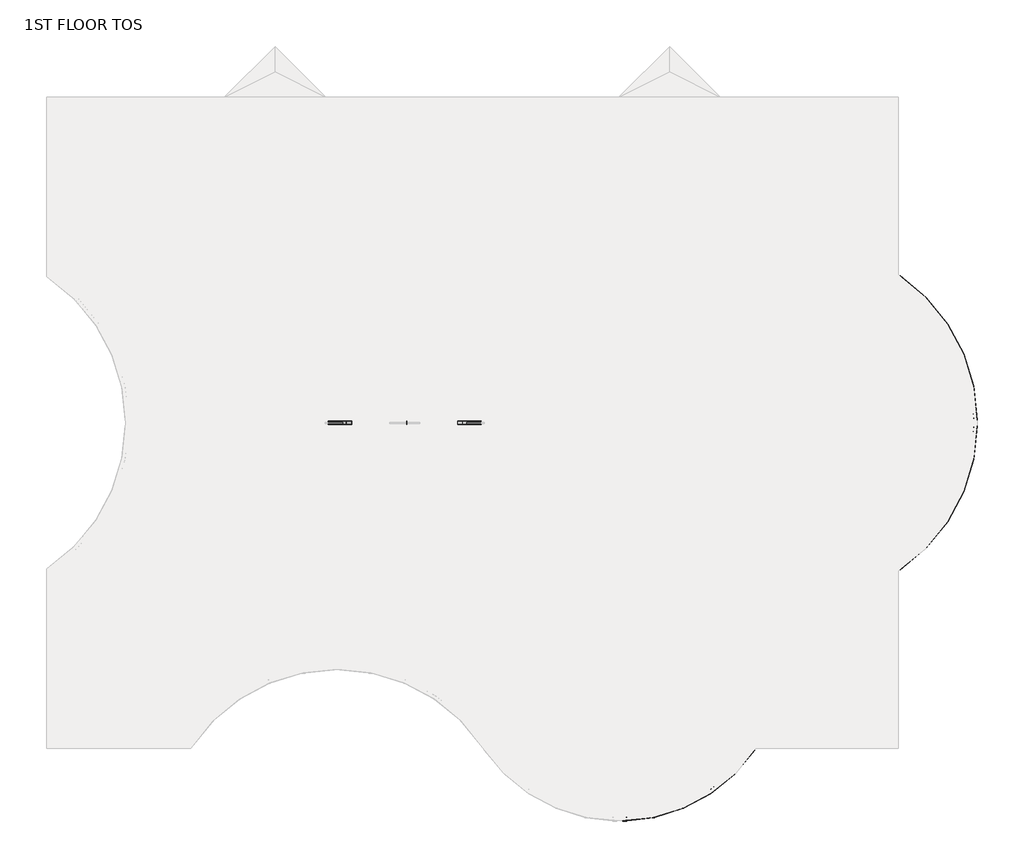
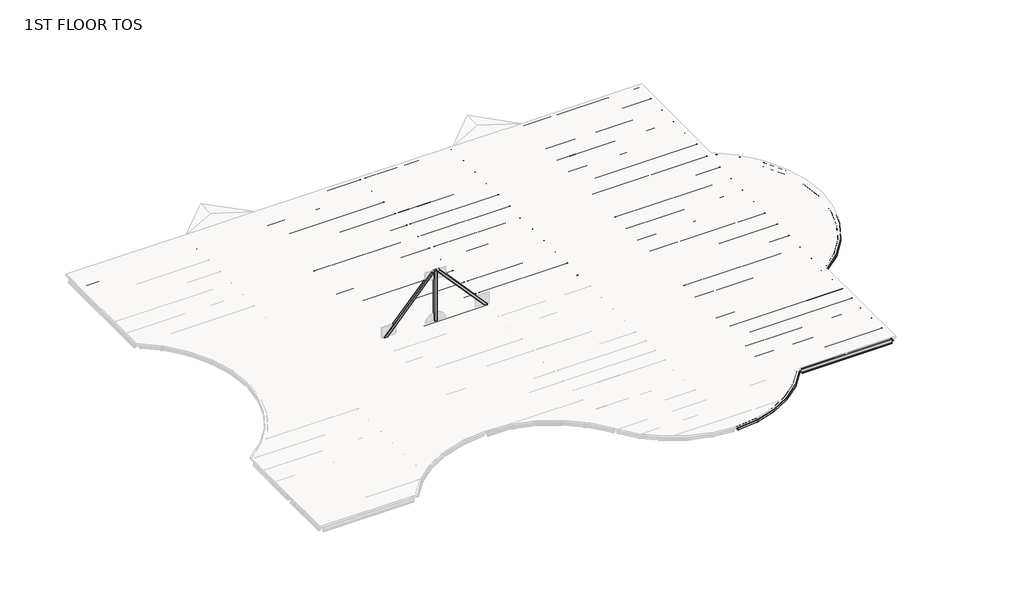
# One storey, part 2 of 2: 111 beams, 3 members.
"""IFC4 building model written with IfcOpenShell, lengths in millimetres."""

from ifc_helpers import new_model, si_unit, origin, place, context, project, spatial, transform, mapped, element, save
from components import m_hss_square_hss203_2x203_2x9_5_28e91a4e, m_hss_square_hss203_2x203_2x9_5_f31329aa, m_hss_square_hss203_2x203_2x9_5_63507dff, ub_universal_beams_ub254x102x28_7812688d, ub_universal_beams_ub254x102x28_4a38c177, ub_universal_beams_ub305x165x40_c4d0385b, ub_universal_beams_ub305x165x40_19965e16, ub_universal_beams_ub305x165x40_d3abc31d, ub_universal_beams_ub305x165x40_0c73730f, ub_universal_beams_ub305x165x40_2a963f0c, ub_universal_beams_ub305x165x40_9ce7f2ee, ub_universal_beams_ub305x165x40_d184adfd, ub_universal_beams_ub305x165x40_bc7dc938, ub_universal_beams_ub305x165x40_b4233d25, ub_universal_beams_ub356x171x51_c708c058, ub_universal_beams_ub356x171x51_ef72dcdd, ub_universal_beams_ub356x171x51_10b3c54f, ub_universal_beams_ub356x171x51_4c9fd821, ub_universal_beams_ub356x171x51_d1a87c3c, ub_universal_beams_ub356x171x51_fa75724b, ub_universal_beams_ub356x171x51_68db896e, ub_universal_beams_ub356x171x51_c634c4a6, ub_universal_beams_ub356x171x51_995f1560, ub_universal_beams_ub356x171x51_dfc36663, ub_universal_beams_ub356x171x51_11d6b780, ub_universal_beams_ub356x171x51_76b2d20b, ub_universal_beams_ub356x171x51_145ecd4b, ub_universal_beams_ub356x171x51_c7dff8d2, ub_universal_beams_ub356x171x51_8a345439, ub_universal_beams_ub356x171x51_6da510e9, ub_universal_beams_ub356x171x51_e97f8d2e, ub_universal_beams_ub356x171x51_a38b99de, ub_universal_beams_ub356x171x51_d8f4cdde, ub_universal_beams_ub356x171x51_475301e6, ub_universal_beams_ub356x171x51_c03c70fb, ub_universal_beams_ub356x171x51_741bae58, m_hss_square_hss203_2x203_2x9_5_33c3a177, m_hss_square_hss203_2x203_2x9_5_a36f1cbc

model = new_model("IFC4")

# Units and contexts
model_context = context("Model", 3, world=origin())
ifc_project = project(units=[si_unit("LENGTHUNIT", "METRE", prefix="MILLI")], contexts=[model_context])

# Site, building, storey
site = spatial("IfcSite", under=ifc_project)
building = spatial("IfcBuilding", under=site)
storey = spatial("IfcBuildingStorey", under=building, Name="1ST FLOOR TOS", Elevation=4419.6)

# Beams
placement = place(None, origin())
m_hss_square_hss203_2x203_2x9_5_shape = m_hss_square_hss203_2x203_2x9_5_28e91a4e(model_context)
element("IfcBeam", 1, ObjectType="M_HSS Square : HSS203.2X203.2X9.5", at=placement, inside=storey, context=model_context, shape_type="MappedRepresentation", body=[
    mapped(m_hss_square_hss203_2x203_2x9_5_shape, transform((44027.575, 24539.575, 4318.1), x_axis=(0.8332810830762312, -0.5528495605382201, 0.0), y_axis=(0.5528495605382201, 0.8332810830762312, 0.0), z_axis=(0.0, 0.0, 1.0))),
])
m_hss_square_hss203_2x203_2x9_5_2_shape = m_hss_square_hss203_2x203_2x9_5_f31329aa(model_context)
element("IfcBeam", 2, ObjectType="M_HSS Square : HSS203.2X203.2X9.5", at=placement, inside=storey, context=model_context, shape_type="MappedRepresentation", body=[
    mapped(m_hss_square_hss203_2x203_2x9_5_2_shape, transform((44027.575, 9299.575, 4318.1), x_axis=(0.8332810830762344, 0.5528495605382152, 0.0), y_axis=(-0.5528495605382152, 0.8332810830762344, 0.0), z_axis=(0.0, 0.0, 1.0))),
])
m_hss_square_hss203_2x203_2x9_5_3_shape = m_hss_square_hss203_2x203_2x9_5_63507dff(model_context)
element("IfcBeam", 3, ObjectType="M_HSS Square : HSS203.2X203.2X9.5", at=placement, inside=storey, context=model_context, shape_type="MappedRepresentation", body=[
    mapped(m_hss_square_hss203_2x203_2x9_5_3_shape, transform((36716.575, 155.575, 4318.1), x_axis=(-0.5530174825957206, -0.8331696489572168, 0.0), y_axis=(0.8331696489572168, -0.5530174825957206, 0.0), z_axis=(0.0, 0.0, 1.0))),
])
ub_universal_beams_ub254x102x28_shape = ub_universal_beams_ub254x102x28_7812688d(model_context)
element("IfcBeam", 4, ObjectType="UB-Universal Beams : UB254x102x28", at=placement, inside=storey, context=model_context, shape_type="MappedRepresentation", body=[
    mapped(ub_universal_beams_ub254x102x28_shape, transform((10592.575, 34976.575, 4289.4), x_axis=(0.7071067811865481, 0.7071067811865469, 0.0), y_axis=(-0.7071067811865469, 0.7071067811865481, 0.0), z_axis=(0.0, 0.0, 1.0))),
])
element("IfcBeam", 5, ObjectType="UB-Universal Beams : UB254x102x28", at=placement, inside=storey, context=model_context, shape_type="MappedRepresentation", body=[
    mapped(ub_universal_beams_ub254x102x28_shape, transform((31004.575, 34976.575, 4289.4), x_axis=(0.7071067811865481, 0.7071067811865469, 0.0), y_axis=(-0.7071067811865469, 0.7071067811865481, 0.0), z_axis=(0.0, 0.0, 1.0))),
])
ub_universal_beams_ub254x102x28_2_shape = ub_universal_beams_ub254x102x28_4a38c177(model_context)
element("IfcBeam", 6, ObjectType="UB-Universal Beams : UB254x102x28", at=placement, inside=storey, context=model_context, shape_type="MappedRepresentation", body=[
    mapped(ub_universal_beams_ub254x102x28_2_shape, transform((13178.575, 34976.575, 4289.4), x_axis=(0.707106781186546, -0.707106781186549, 0.0), y_axis=(0.707106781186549, 0.707106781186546, 0.0), z_axis=(0.0, 0.0, 1.0))),
])
element("IfcBeam", 7, ObjectType="UB-Universal Beams : UB254x102x28", at=placement, inside=storey, context=model_context, shape_type="MappedRepresentation", body=[
    mapped(ub_universal_beams_ub254x102x28_2_shape, transform((33590.575, 34976.575, 4289.4), x_axis=(0.7071067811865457, -0.7071067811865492, 0.0), y_axis=(0.7071067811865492, 0.7071067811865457, 0.0), z_axis=(0.0, 0.0, 1.0))),
])
ub_universal_beams_ub305x165x40_shape = ub_universal_beams_ub305x165x40_c4d0385b(model_context)
element("IfcBeam", 8, ObjectType="UB-Universal Beams : UB305x165x40", at=placement, inside=storey, context=model_context, shape_type="MappedRepresentation", body=[
    mapped(ub_universal_beams_ub305x165x40_shape, transform((4727.575, 32159.575, 4267.9), x_axis=(1.0, 0.0, 0.0), y_axis=(0.0, 1.0, 0.0), z_axis=(0.0, 0.0, 1.0))),
])
element("IfcBeam", 9, ObjectType="UB-Universal Beams : UB305x165x40", at=placement, inside=storey, context=model_context, shape_type="MappedRepresentation", body=[
    mapped(ub_universal_beams_ub305x165x40_shape, transform((39455.575, 32159.575, 4267.9), x_axis=(1.0, 0.0, 0.0), y_axis=(0.0, 1.0, 0.0), z_axis=(0.0, 0.0, 1.0))),
])
element("IfcBeam", 10, ObjectType="UB-Universal Beams : UB305x165x40", at=placement, inside=storey, context=model_context, shape_type="MappedRepresentation", body=[
    mapped(ub_universal_beams_ub305x165x40_shape, transform((39455.575, 30635.575, 4267.9), x_axis=(1.0, 0.0, 0.0), y_axis=(0.0, 1.0, 0.0), z_axis=(0.0, 0.0, 1.0))),
])
element("IfcBeam", 11, ObjectType="UB-Universal Beams : UB305x165x40", at=placement, inside=storey, context=model_context, shape_type="MappedRepresentation", body=[
    mapped(ub_universal_beams_ub305x165x40_shape, transform((39455.575, 29111.575, 4267.9), x_axis=(1.0, 0.0, 0.0), y_axis=(0.0, 1.0, 0.0), z_axis=(0.0, 0.0, 1.0))),
])
element("IfcBeam", 12, ObjectType="UB-Universal Beams : UB305x165x40", at=placement, inside=storey, context=model_context, shape_type="MappedRepresentation", body=[
    mapped(ub_universal_beams_ub305x165x40_shape, transform((39455.575, 27587.575, 4267.9), x_axis=(1.0, 0.0, 0.0), y_axis=(0.0, 1.0, 0.0), z_axis=(0.0, 0.0, 1.0))),
])
element("IfcBeam", 13, ObjectType="UB-Universal Beams : UB305x165x40", at=placement, inside=storey, context=model_context, shape_type="MappedRepresentation", body=[
    mapped(ub_universal_beams_ub305x165x40_shape, transform((39455.575, 26063.575, 4267.9), x_axis=(1.0, 0.0, 0.0), y_axis=(0.0, 1.0, 0.0), z_axis=(0.0, 0.0, 1.0))),
])
element("IfcBeam", 14, ObjectType="UB-Universal Beams : UB305x165x40", at=placement, inside=storey, context=model_context, shape_type="MappedRepresentation", body=[
    mapped(ub_universal_beams_ub305x165x40_shape, transform((39455.575, 23015.575, 4267.9), x_axis=(1.0, 0.0, 0.0), y_axis=(0.0, 1.0, 0.0), z_axis=(0.0, 0.0, 1.0))),
])
element("IfcBeam", 15, ObjectType="UB-Universal Beams : UB305x165x40", at=placement, inside=storey, context=model_context, shape_type="MappedRepresentation", body=[
    mapped(ub_universal_beams_ub305x165x40_shape, transform((39455.575, 21491.575, 4267.9), x_axis=(1.0, 0.0, 0.0), y_axis=(0.0, 1.0, 0.0), z_axis=(0.0, 0.0, 1.0))),
])
element("IfcBeam", 16, ObjectType="UB-Universal Beams : UB305x165x40", at=placement, inside=storey, context=model_context, shape_type="MappedRepresentation", body=[
    mapped(ub_universal_beams_ub305x165x40_shape, transform((39455.575, 19967.575, 4267.9), x_axis=(1.0, 0.0, 0.0), y_axis=(0.0, 1.0, 0.0), z_axis=(0.0, 0.0, 1.0))),
])
element("IfcBeam", 17, ObjectType="UB-Universal Beams : UB305x165x40", at=placement, inside=storey, context=model_context, shape_type="MappedRepresentation", body=[
    mapped(ub_universal_beams_ub305x165x40_shape, transform((39455.575, 18443.575, 4267.9), x_axis=(1.0, 0.0, 0.0), y_axis=(0.0, 1.0, 0.0), z_axis=(0.0, 0.0, 1.0))),
])
element("IfcBeam", 18, ObjectType="UB-Universal Beams : UB305x165x40", at=placement, inside=storey, context=model_context, shape_type="MappedRepresentation", body=[
    mapped(ub_universal_beams_ub305x165x40_shape, transform((39455.575, 15395.575, 4267.9), x_axis=(1.0, 0.0, 0.0), y_axis=(0.0, 1.0, 0.0), z_axis=(0.0, 0.0, 1.0))),
])
element("IfcBeam", 19, ObjectType="UB-Universal Beams : UB305x165x40", at=placement, inside=storey, context=model_context, shape_type="MappedRepresentation", body=[
    mapped(ub_universal_beams_ub305x165x40_shape, transform((39455.575, 13871.575, 4267.9), x_axis=(1.0, 0.0, 0.0), y_axis=(0.0, 1.0, 0.0), z_axis=(0.0, 0.0, 1.0))),
])
element("IfcBeam", 20, ObjectType="UB-Universal Beams : UB305x165x40", at=placement, inside=storey, context=model_context, shape_type="MappedRepresentation", body=[
    mapped(ub_universal_beams_ub305x165x40_shape, transform((39455.575, 12347.575, 4267.9), x_axis=(1.0, 0.0, 0.0), y_axis=(0.0, 1.0, 0.0), z_axis=(0.0, 0.0, 1.0))),
])
element("IfcBeam", 21, ObjectType="UB-Universal Beams : UB305x165x40", at=placement, inside=storey, context=model_context, shape_type="MappedRepresentation", body=[
    mapped(ub_universal_beams_ub305x165x40_shape, transform((39455.575, 10823.575, 4267.9), x_axis=(1.0, 0.0, 0.0), y_axis=(0.0, 1.0, 0.0), z_axis=(0.0, 0.0, 1.0))),
])
element("IfcBeam", 22, ObjectType="UB-Universal Beams : UB305x165x40", at=placement, inside=storey, context=model_context, shape_type="MappedRepresentation", body=[
    mapped(ub_universal_beams_ub305x165x40_shape, transform((39455.575, 5508.325, 4267.9), x_axis=(-1.0, 0.0, 0.0), y_axis=(0.0, -1.0, 0.0), z_axis=(0.0, 0.0, 1.0))),
])
element("IfcBeam", 23, ObjectType="UB-Universal Beams : UB305x165x40", at=placement, inside=storey, context=model_context, shape_type="MappedRepresentation", body=[
    mapped(ub_universal_beams_ub305x165x40_shape, transform((39455.575, 6772.075, 4267.9), x_axis=(-1.0, 0.0, 0.0), y_axis=(0.0, -1.0, 0.0), z_axis=(0.0, 0.0, 1.0))),
])
element("IfcBeam", 24, ObjectType="UB-Universal Beams : UB305x165x40", at=placement, inside=storey, context=model_context, shape_type="MappedRepresentation", body=[
    mapped(ub_universal_beams_ub305x165x40_shape, transform((39455.575, 8035.825, 4267.9), x_axis=(-1.0, 0.0, 0.0), y_axis=(0.0, -1.0, 0.0), z_axis=(0.0, 0.0, 1.0))),
])
element("IfcBeam", 25, ObjectType="UB-Universal Beams : UB305x165x40", at=placement, inside=storey, context=model_context, shape_type="MappedRepresentation", body=[
    mapped(ub_universal_beams_ub305x165x40_shape, transform((39455.575, 1518.575, 4267.9), x_axis=(-1.0, 0.0, 0.0), y_axis=(0.0, -1.0, 0.0), z_axis=(0.0, 0.0, 1.0))),
])
element("IfcBeam", 26, ObjectType="UB-Universal Beams : UB305x165x40", at=placement, inside=storey, context=model_context, shape_type="MappedRepresentation", body=[
    mapped(ub_universal_beams_ub305x165x40_shape, transform((39455.575, 2881.575, 4267.9), x_axis=(-1.0, 0.0, 0.0), y_axis=(0.0, -1.0, 0.0), z_axis=(0.0, 0.0, 1.0))),
])
ub_universal_beams_ub305x165x40_2_shape = ub_universal_beams_ub305x165x40_19965e16(model_context)
element("IfcBeam", 27, ObjectType="UB-Universal Beams : UB305x165x40", at=placement, inside=storey, context=model_context, shape_type="MappedRepresentation", body=[
    mapped(ub_universal_beams_ub305x165x40_2_shape, transform((11885.575, 34803.325, 4267.9), x_axis=(1.0, 0.0, 0.0), y_axis=(0.0, 1.0, 0.0), z_axis=(0.0, 0.0, 1.0))),
])
element("IfcBeam", 28, ObjectType="UB-Universal Beams : UB305x165x40", at=placement, inside=storey, context=model_context, shape_type="MappedRepresentation", body=[
    mapped(ub_universal_beams_ub305x165x40_2_shape, transform((32297.575, 34803.325, 4267.9), x_axis=(1.0, 0.0, 0.0), y_axis=(0.0, 1.0, 0.0), z_axis=(0.0, 0.0, 1.0))),
])
ub_universal_beams_ub305x165x40_3_shape = ub_universal_beams_ub305x165x40_d3abc31d(model_context)
element("IfcBeam", 29, ObjectType="UB-Universal Beams : UB305x165x40", at=placement, inside=storey, context=model_context, shape_type="MappedRepresentation", body=[
    mapped(ub_universal_beams_ub305x165x40_3_shape, transform((11885.575, 33337.075, 4267.9), x_axis=(1.0, 0.0, 0.0), y_axis=(0.0, 1.0, 0.0), z_axis=(0.0, 0.0, 1.0))),
])
element("IfcBeam", 30, ObjectType="UB-Universal Beams : UB305x165x40", at=placement, inside=storey, context=model_context, shape_type="MappedRepresentation", body=[
    mapped(ub_universal_beams_ub305x165x40_3_shape, transform((11885.575, 31870.825, 4267.9), x_axis=(1.0, 0.0, 0.0), y_axis=(0.0, 1.0, 0.0), z_axis=(0.0, 0.0, 1.0))),
])
element("IfcBeam", 31, ObjectType="UB-Universal Beams : UB305x165x40", at=placement, inside=storey, context=model_context, shape_type="MappedRepresentation", body=[
    mapped(ub_universal_beams_ub305x165x40_3_shape, transform((11885.575, 30404.575, 4267.9), x_axis=(1.0, 0.0, 0.0), y_axis=(0.0, 1.0, 0.0), z_axis=(0.0, 0.0, 1.0))),
])
element("IfcBeam", 32, ObjectType="UB-Universal Beams : UB305x165x40", at=placement, inside=storey, context=model_context, shape_type="MappedRepresentation", body=[
    mapped(ub_universal_beams_ub305x165x40_3_shape, transform((11885.575, 28938.325, 4267.9), x_axis=(1.0, 0.0, 0.0), y_axis=(0.0, 1.0, 0.0), z_axis=(0.0, 0.0, 1.0))),
])
element("IfcBeam", 33, ObjectType="UB-Universal Beams : UB305x165x40", at=placement, inside=storey, context=model_context, shape_type="MappedRepresentation", body=[
    mapped(ub_universal_beams_ub305x165x40_3_shape, transform((32297.575, 33337.075, 4267.9), x_axis=(1.0, 0.0, 0.0), y_axis=(0.0, 1.0, 0.0), z_axis=(0.0, 0.0, 1.0))),
])
element("IfcBeam", 34, ObjectType="UB-Universal Beams : UB305x165x40", at=placement, inside=storey, context=model_context, shape_type="MappedRepresentation", body=[
    mapped(ub_universal_beams_ub305x165x40_3_shape, transform((32297.575, 31870.825, 4267.9), x_axis=(1.0, 0.0, 0.0), y_axis=(0.0, 1.0, 0.0), z_axis=(0.0, 0.0, 1.0))),
])
element("IfcBeam", 35, ObjectType="UB-Universal Beams : UB305x165x40", at=placement, inside=storey, context=model_context, shape_type="MappedRepresentation", body=[
    mapped(ub_universal_beams_ub305x165x40_3_shape, transform((32297.575, 30404.575, 4267.9), x_axis=(1.0, 0.0, 0.0), y_axis=(0.0, 1.0, 0.0), z_axis=(0.0, 0.0, 1.0))),
])
element("IfcBeam", 36, ObjectType="UB-Universal Beams : UB305x165x40", at=placement, inside=storey, context=model_context, shape_type="MappedRepresentation", body=[
    mapped(ub_universal_beams_ub305x165x40_3_shape, transform((32297.575, 28938.325, 4267.9), x_axis=(1.0, 0.0, 0.0), y_axis=(0.0, 1.0, 0.0), z_axis=(0.0, 0.0, 1.0))),
])
element("IfcBeam", 37, ObjectType="UB-Universal Beams : UB305x165x40", at=placement, inside=storey, context=model_context, shape_type="MappedRepresentation", body=[
    mapped(ub_universal_beams_ub305x165x40_3_shape, transform((32297.575, 27472.075, 4267.9), x_axis=(1.0, 0.0, 0.0), y_axis=(0.0, 1.0, 0.0), z_axis=(0.0, 0.0, 1.0))),
])
element("IfcBeam", 38, ObjectType="UB-Universal Beams : UB305x165x40", at=placement, inside=storey, context=model_context, shape_type="MappedRepresentation", body=[
    mapped(ub_universal_beams_ub305x165x40_3_shape, transform((32297.575, 26005.825, 4267.9), x_axis=(1.0, 0.0, 0.0), y_axis=(0.0, 1.0, 0.0), z_axis=(0.0, 0.0, 1.0))),
])
element("IfcBeam", 39, ObjectType="UB-Universal Beams : UB305x165x40", at=placement, inside=storey, context=model_context, shape_type="MappedRepresentation", body=[
    mapped(ub_universal_beams_ub305x165x40_3_shape, transform((32297.575, 1518.575, 4267.9), x_axis=(-1.0, 0.0, 0.0), y_axis=(0.0, -1.0, 0.0), z_axis=(0.0, 0.0, 1.0))),
])
element("IfcBeam", 40, ObjectType="UB-Universal Beams : UB305x165x40", at=placement, inside=storey, context=model_context, shape_type="MappedRepresentation", body=[
    mapped(ub_universal_beams_ub305x165x40_3_shape, transform((32297.575, 2881.575, 4267.9), x_axis=(-1.0, 0.0, 0.0), y_axis=(0.0, -1.0, 0.0), z_axis=(0.0, 0.0, 1.0))),
])
element("IfcBeam", 41, ObjectType="UB-Universal Beams : UB305x165x40", at=placement, inside=storey, context=model_context, shape_type="MappedRepresentation", body=[
    mapped(ub_universal_beams_ub305x165x40_3_shape, transform((32297.575, 5508.325, 4267.9), x_axis=(-1.0, 0.0, 0.0), y_axis=(0.0, -1.0, 0.0), z_axis=(0.0, 0.0, 1.0))),
])
element("IfcBeam", 42, ObjectType="UB-Universal Beams : UB305x165x40", at=placement, inside=storey, context=model_context, shape_type="MappedRepresentation", body=[
    mapped(ub_universal_beams_ub305x165x40_3_shape, transform((32297.575, 6772.075, 4267.9), x_axis=(-1.0, 0.0, 0.0), y_axis=(0.0, -1.0, 0.0), z_axis=(0.0, 0.0, 1.0))),
])
element("IfcBeam", 43, ObjectType="UB-Universal Beams : UB305x165x40", at=placement, inside=storey, context=model_context, shape_type="MappedRepresentation", body=[
    mapped(ub_universal_beams_ub305x165x40_3_shape, transform((32297.575, 8035.825, 4267.9), x_axis=(-1.0, 0.0, 0.0), y_axis=(0.0, -1.0, 0.0), z_axis=(0.0, 0.0, 1.0))),
])
element("IfcBeam", 44, ObjectType="UB-Universal Beams : UB305x165x40", at=placement, inside=storey, context=model_context, shape_type="MappedRepresentation", body=[
    mapped(ub_universal_beams_ub305x165x40_3_shape, transform((32297.575, 15395.575, 4267.9), x_axis=(1.0, 0.0, 0.0), y_axis=(0.0, 1.0, 0.0), z_axis=(0.0, 0.0, 1.0))),
])
element("IfcBeam", 45, ObjectType="UB-Universal Beams : UB305x165x40", at=placement, inside=storey, context=model_context, shape_type="MappedRepresentation", body=[
    mapped(ub_universal_beams_ub305x165x40_3_shape, transform((32297.575, 13871.575, 4267.9), x_axis=(1.0, 0.0, 0.0), y_axis=(0.0, 1.0, 0.0), z_axis=(0.0, 0.0, 1.0))),
])
element("IfcBeam", 46, ObjectType="UB-Universal Beams : UB305x165x40", at=placement, inside=storey, context=model_context, shape_type="MappedRepresentation", body=[
    mapped(ub_universal_beams_ub305x165x40_3_shape, transform((32297.575, 12347.575, 4267.9), x_axis=(1.0, 0.0, 0.0), y_axis=(0.0, 1.0, 0.0), z_axis=(0.0, 0.0, 1.0))),
])
element("IfcBeam", 47, ObjectType="UB-Universal Beams : UB305x165x40", at=placement, inside=storey, context=model_context, shape_type="MappedRepresentation", body=[
    mapped(ub_universal_beams_ub305x165x40_3_shape, transform((32297.575, 10823.575, 4267.9), x_axis=(1.0, 0.0, 0.0), y_axis=(0.0, 1.0, 0.0), z_axis=(0.0, 0.0, 1.0))),
])
element("IfcBeam", 48, ObjectType="UB-Universal Beams : UB305x165x40", at=placement, inside=storey, context=model_context, shape_type="MappedRepresentation", body=[
    mapped(ub_universal_beams_ub305x165x40_3_shape, transform((32297.575, 23015.575, 4267.9), x_axis=(1.0, 0.0, 0.0), y_axis=(0.0, 1.0, 0.0), z_axis=(0.0, 0.0, 1.0))),
])
element("IfcBeam", 49, ObjectType="UB-Universal Beams : UB305x165x40", at=placement, inside=storey, context=model_context, shape_type="MappedRepresentation", body=[
    mapped(ub_universal_beams_ub305x165x40_3_shape, transform((32297.575, 21491.575, 4267.9), x_axis=(1.0, 0.0, 0.0), y_axis=(0.0, 1.0, 0.0), z_axis=(0.0, 0.0, 1.0))),
])
element("IfcBeam", 50, ObjectType="UB-Universal Beams : UB305x165x40", at=placement, inside=storey, context=model_context, shape_type="MappedRepresentation", body=[
    mapped(ub_universal_beams_ub305x165x40_3_shape, transform((32297.575, 19967.575, 4267.9), x_axis=(1.0, 0.0, 0.0), y_axis=(0.0, 1.0, 0.0), z_axis=(0.0, 0.0, 1.0))),
])
element("IfcBeam", 51, ObjectType="UB-Universal Beams : UB305x165x40", at=placement, inside=storey, context=model_context, shape_type="MappedRepresentation", body=[
    mapped(ub_universal_beams_ub305x165x40_3_shape, transform((32297.575, 18443.575, 4267.9), x_axis=(1.0, 0.0, 0.0), y_axis=(0.0, 1.0, 0.0), z_axis=(0.0, 0.0, 1.0))),
])
ub_universal_beams_ub305x165x40_4_shape = ub_universal_beams_ub305x165x40_0c73730f(model_context)
element("IfcBeam", 52, ObjectType="UB-Universal Beams : UB305x165x40", at=placement, inside=storey, context=model_context, shape_type="MappedRepresentation", body=[
    mapped(ub_universal_beams_ub305x165x40_4_shape, transform((18591.075, 32159.575, 4267.9), x_axis=(1.0, 0.0, 0.0), y_axis=(0.0, 1.0, 0.0), z_axis=(0.0, 0.0, 1.0))),
])
element("IfcBeam", 53, ObjectType="UB-Universal Beams : UB305x165x40", at=placement, inside=storey, context=model_context, shape_type="MappedRepresentation", body=[
    mapped(ub_universal_beams_ub305x165x40_4_shape, transform((18591.075, 30635.575, 4267.9), x_axis=(1.0, 0.0, 0.0), y_axis=(0.0, 1.0, 0.0), z_axis=(0.0, 0.0, 1.0))),
])
element("IfcBeam", 54, ObjectType="UB-Universal Beams : UB305x165x40", at=placement, inside=storey, context=model_context, shape_type="MappedRepresentation", body=[
    mapped(ub_universal_beams_ub305x165x40_4_shape, transform((18591.075, 29111.575, 4267.9), x_axis=(1.0, 0.0, 0.0), y_axis=(0.0, 1.0, 0.0), z_axis=(0.0, 0.0, 1.0))),
])
element("IfcBeam", 55, ObjectType="UB-Universal Beams : UB305x165x40", at=placement, inside=storey, context=model_context, shape_type="MappedRepresentation", body=[
    mapped(ub_universal_beams_ub305x165x40_4_shape, transform((18591.075, 27587.575, 4267.9), x_axis=(1.0, 0.0, 0.0), y_axis=(0.0, 1.0, 0.0), z_axis=(0.0, 0.0, 1.0))),
])
element("IfcBeam", 56, ObjectType="UB-Universal Beams : UB305x165x40", at=placement, inside=storey, context=model_context, shape_type="MappedRepresentation", body=[
    mapped(ub_universal_beams_ub305x165x40_4_shape, transform((18591.075, 26063.575, 4267.9), x_axis=(1.0, 0.0, 0.0), y_axis=(0.0, 1.0, 0.0), z_axis=(0.0, 0.0, 1.0))),
])
element("IfcBeam", 57, ObjectType="UB-Universal Beams : UB305x165x40", at=placement, inside=storey, context=model_context, shape_type="MappedRepresentation", body=[
    mapped(ub_universal_beams_ub305x165x40_4_shape, transform((18591.075, 23015.575, 4267.9), x_axis=(1.0, 0.0, 0.0), y_axis=(0.0, 1.0, 0.0), z_axis=(0.0, 0.0, 1.0))),
])
element("IfcBeam", 58, ObjectType="UB-Universal Beams : UB305x165x40", at=placement, inside=storey, context=model_context, shape_type="MappedRepresentation", body=[
    mapped(ub_universal_beams_ub305x165x40_4_shape, transform((18591.075, 21491.575, 4267.9), x_axis=(1.0, 0.0, 0.0), y_axis=(0.0, 1.0, 0.0), z_axis=(0.0, 0.0, 1.0))),
])
element("IfcBeam", 59, ObjectType="UB-Universal Beams : UB305x165x40", at=placement, inside=storey, context=model_context, shape_type="MappedRepresentation", body=[
    mapped(ub_universal_beams_ub305x165x40_4_shape, transform((18591.075, 19967.575, 4267.9), x_axis=(1.0, 0.0, 0.0), y_axis=(0.0, 1.0, 0.0), z_axis=(0.0, 0.0, 1.0))),
])
element("IfcBeam", 60, ObjectType="UB-Universal Beams : UB305x165x40", at=placement, inside=storey, context=model_context, shape_type="MappedRepresentation", body=[
    mapped(ub_universal_beams_ub305x165x40_4_shape, transform((18591.075, 18443.575, 4267.9), x_axis=(1.0, 0.0, 0.0), y_axis=(0.0, 1.0, 0.0), z_axis=(0.0, 0.0, 1.0))),
])
ub_universal_beams_ub305x165x40_5_shape = ub_universal_beams_ub305x165x40_2a963f0c(model_context)
element("IfcBeam", 61, ObjectType="UB-Universal Beams : UB305x165x40", at=placement, inside=storey, context=model_context, shape_type="MappedRepresentation", body=[
    mapped(ub_universal_beams_ub305x165x40_5_shape, transform((26211.075, 32159.575, 4267.9), x_axis=(1.0, 0.0, 0.0), y_axis=(0.0, 1.0, 0.0), z_axis=(0.0, 0.0, 1.0))),
])
element("IfcBeam", 62, ObjectType="UB-Universal Beams : UB305x165x40", at=placement, inside=storey, context=model_context, shape_type="MappedRepresentation", body=[
    mapped(ub_universal_beams_ub305x165x40_5_shape, transform((26211.075, 30635.575, 4267.9), x_axis=(1.0, 0.0, 0.0), y_axis=(0.0, 1.0, 0.0), z_axis=(0.0, 0.0, 1.0))),
])
element("IfcBeam", 63, ObjectType="UB-Universal Beams : UB305x165x40", at=placement, inside=storey, context=model_context, shape_type="MappedRepresentation", body=[
    mapped(ub_universal_beams_ub305x165x40_5_shape, transform((26211.075, 29111.575, 4267.9), x_axis=(1.0, 0.0, 0.0), y_axis=(0.0, 1.0, 0.0), z_axis=(0.0, 0.0, 1.0))),
])
element("IfcBeam", 64, ObjectType="UB-Universal Beams : UB305x165x40", at=placement, inside=storey, context=model_context, shape_type="MappedRepresentation", body=[
    mapped(ub_universal_beams_ub305x165x40_5_shape, transform((26211.075, 27587.575, 4267.9), x_axis=(1.0, 0.0, 0.0), y_axis=(0.0, 1.0, 0.0), z_axis=(0.0, 0.0, 1.0))),
])
element("IfcBeam", 65, ObjectType="UB-Universal Beams : UB305x165x40", at=placement, inside=storey, context=model_context, shape_type="MappedRepresentation", body=[
    mapped(ub_universal_beams_ub305x165x40_5_shape, transform((26211.075, 26063.575, 4267.9), x_axis=(1.0, 0.0, 0.0), y_axis=(0.0, 1.0, 0.0), z_axis=(0.0, 0.0, 1.0))),
])
element("IfcBeam", 66, ObjectType="UB-Universal Beams : UB305x165x40", at=placement, inside=storey, context=model_context, shape_type="MappedRepresentation", body=[
    mapped(ub_universal_beams_ub305x165x40_5_shape, transform((26211.075, 23015.575, 4267.9), x_axis=(1.0, 0.0, 0.0), y_axis=(0.0, 1.0, 0.0), z_axis=(0.0, 0.0, 1.0))),
])
element("IfcBeam", 67, ObjectType="UB-Universal Beams : UB305x165x40", at=placement, inside=storey, context=model_context, shape_type="MappedRepresentation", body=[
    mapped(ub_universal_beams_ub305x165x40_5_shape, transform((26211.075, 21491.575, 4267.9), x_axis=(1.0, 0.0, 0.0), y_axis=(0.0, 1.0, 0.0), z_axis=(0.0, 0.0, 1.0))),
])
element("IfcBeam", 68, ObjectType="UB-Universal Beams : UB305x165x40", at=placement, inside=storey, context=model_context, shape_type="MappedRepresentation", body=[
    mapped(ub_universal_beams_ub305x165x40_5_shape, transform((26211.075, 19967.575, 4267.9), x_axis=(1.0, 0.0, 0.0), y_axis=(0.0, 1.0, 0.0), z_axis=(0.0, 0.0, 1.0))),
])
element("IfcBeam", 69, ObjectType="UB-Universal Beams : UB305x165x40", at=placement, inside=storey, context=model_context, shape_type="MappedRepresentation", body=[
    mapped(ub_universal_beams_ub305x165x40_5_shape, transform((26211.075, 18443.575, 4267.9), x_axis=(1.0, 0.0, 0.0), y_axis=(0.0, 1.0, 0.0), z_axis=(0.0, 0.0, 1.0))),
])
ub_universal_beams_ub305x165x40_6_shape = ub_universal_beams_ub305x165x40_9ce7f2ee(model_context)
element("IfcBeam", 70, ObjectType="UB-Universal Beams : UB305x165x40", at=placement, inside=storey, context=model_context, shape_type="MappedRepresentation", body=[
    mapped(ub_universal_beams_ub305x165x40_6_shape, transform((44907.9405309, 23015.575, 4267.9), x_axis=(1.0, 0.0, 0.0), y_axis=(0.0, 1.0, 0.0), z_axis=(0.0, 0.0, 1.0))),
])
element("IfcBeam", 71, ObjectType="UB-Universal Beams : UB305x165x40", at=placement, inside=storey, context=model_context, shape_type="MappedRepresentation", body=[
    mapped(ub_universal_beams_ub305x165x40_6_shape, transform((44907.9405309, 10823.575, 4267.9), x_axis=(1.0, 0.0, 0.0), y_axis=(0.0, 1.0, 0.0), z_axis=(0.0, 0.0, 1.0))),
])
ub_universal_beams_ub305x165x40_7_shape = ub_universal_beams_ub305x165x40_d184adfd(model_context)
element("IfcBeam", 72, ObjectType="UB-Universal Beams : UB305x165x40", at=placement, inside=storey, context=model_context, shape_type="MappedRepresentation", body=[
    mapped(ub_universal_beams_ub305x165x40_7_shape, transform((45459.5874928, 21491.575, 4267.9), x_axis=(1.0, 0.0, 0.0), y_axis=(0.0, 1.0, 0.0), z_axis=(0.0, 0.0, 1.0))),
])
element("IfcBeam", 73, ObjectType="UB-Universal Beams : UB305x165x40", at=placement, inside=storey, context=model_context, shape_type="MappedRepresentation", body=[
    mapped(ub_universal_beams_ub305x165x40_7_shape, transform((45459.5874928, 12347.575, 4267.9), x_axis=(1.0, 0.0, 0.0), y_axis=(0.0, 1.0, 0.0), z_axis=(0.0, 0.0, 1.0))),
])
ub_universal_beams_ub305x165x40_8_shape = ub_universal_beams_ub305x165x40_bc7dc938(model_context)
element("IfcBeam", 74, ObjectType="UB-Universal Beams : UB305x165x40", at=placement, inside=storey, context=model_context, shape_type="MappedRepresentation", body=[
    mapped(ub_universal_beams_ub305x165x40_8_shape, transform((45810.6153272, 19967.575, 4267.9), x_axis=(1.0, 0.0, 0.0), y_axis=(0.0, 1.0, 0.0), z_axis=(0.0, 0.0, 1.0))),
])
element("IfcBeam", 75, ObjectType="UB-Universal Beams : UB305x165x40", at=placement, inside=storey, context=model_context, shape_type="MappedRepresentation", body=[
    mapped(ub_universal_beams_ub305x165x40_8_shape, transform((45810.6153272, 13871.575, 4267.9), x_axis=(1.0, 0.0, 0.0), y_axis=(0.0, 1.0, 0.0), z_axis=(0.0, 0.0, 1.0))),
])
ub_universal_beams_ub305x165x40_9_shape = ub_universal_beams_ub305x165x40_b4233d25(model_context)
element("IfcBeam", 76, ObjectType="UB-Universal Beams : UB305x165x40", at=placement, inside=storey, context=model_context, shape_type="MappedRepresentation", body=[
    mapped(ub_universal_beams_ub305x165x40_9_shape, transform((46008.1318611, 18443.575, 4267.9), x_axis=(1.0, 0.0, 0.0), y_axis=(0.0, 1.0, 0.0), z_axis=(0.0, 0.0, 1.0))),
])
element("IfcBeam", 77, ObjectType="UB-Universal Beams : UB305x165x40", at=placement, inside=storey, context=model_context, shape_type="MappedRepresentation", body=[
    mapped(ub_universal_beams_ub305x165x40_9_shape, transform((46008.1318611, 15395.575, 4267.9), x_axis=(1.0, 0.0, 0.0), y_axis=(0.0, 1.0, 0.0), z_axis=(0.0, 0.0, 1.0))),
])
ub_universal_beams_ub356x171x51_shape = ub_universal_beams_ub356x171x51_c708c058(model_context)
element("IfcBeam", 78, ObjectType="UB-Universal Beams : UB356x171x51", at=placement, inside=storey, context=model_context, shape_type="MappedRepresentation", body=[
    mapped(ub_universal_beams_ub356x171x51_shape, transform((2200.075, 33683.575, 4242.1), x_axis=(1.0, 0.0, 0.0), y_axis=(0.0, 1.0, 0.0), z_axis=(0.0, 0.0, 1.0))),
])
ub_universal_beams_ub356x171x51_2_shape = ub_universal_beams_ub356x171x51_ef72dcdd(model_context)
element("IfcBeam", 79, ObjectType="UB-Universal Beams : UB356x171x51", at=placement, inside=storey, context=model_context, shape_type="MappedRepresentation", body=[
    mapped(ub_universal_beams_ub356x171x51_2_shape, transform((6772.075, 33683.575, 4242.1), x_axis=(1.0, 0.0, 0.0), y_axis=(0.0, 1.0, 0.0), z_axis=(0.0, 0.0, 1.0))),
])
element("IfcBeam", 80, ObjectType="UB-Universal Beams : UB356x171x51", at=placement, inside=storey, context=model_context, shape_type="MappedRepresentation", body=[
    mapped(ub_universal_beams_ub356x171x51_2_shape, transform((34883.575, 6772.075, 4242.1), x_axis=(0.0, -1.0, 0.0), y_axis=(1.0, 0.0, 0.0), z_axis=(0.0, 0.0, 1.0))),
])
ub_universal_beams_ub356x171x51_3_shape = ub_universal_beams_ub356x171x51_10b3c54f(model_context)
element("IfcBeam", 81, ObjectType="UB-Universal Beams : UB356x171x51", at=placement, inside=storey, context=model_context, shape_type="MappedRepresentation", body=[
    mapped(ub_universal_beams_ub356x171x51_3_shape, transform((18591.075, 33683.575, 4242.1), x_axis=(1.0, 0.0, 0.0), y_axis=(0.0, 1.0, 0.0), z_axis=(0.0, 0.0, 1.0))),
])
ub_universal_beams_ub356x171x51_4_shape = ub_universal_beams_ub356x171x51_4c9fd821(model_context)
element("IfcBeam", 82, ObjectType="UB-Universal Beams : UB356x171x51", at=placement, inside=storey, context=model_context, shape_type="MappedRepresentation", body=[
    mapped(ub_universal_beams_ub356x171x51_4_shape, transform((26211.075, 33683.575, 4242.1), x_axis=(1.0, 0.0, 0.0), y_axis=(0.0, 1.0, 0.0), z_axis=(0.0, 0.0, 1.0))),
])
ub_universal_beams_ub356x171x51_5_shape = ub_universal_beams_ub356x171x51_d1a87c3c(model_context)
element("IfcBeam", 83, ObjectType="UB-Universal Beams : UB356x171x51", at=placement, inside=storey, context=model_context, shape_type="MappedRepresentation", body=[
    mapped(ub_universal_beams_ub356x171x51_5_shape, transform((39455.575, 33683.575, 4242.1), x_axis=(1.0, 0.0, 0.0), y_axis=(0.0, 1.0, 0.0), z_axis=(0.0, 0.0, 1.0))),
])
ub_universal_beams_ub356x171x51_6_shape = ub_universal_beams_ub356x171x51_fa75724b(model_context)
element("IfcBeam", 84, ObjectType="UB-Universal Beams : UB356x171x51", at=placement, inside=storey, context=model_context, shape_type="MappedRepresentation", body=[
    mapped(ub_universal_beams_ub356x171x51_6_shape, transform((44027.575, 29111.575, 4242.1), x_axis=(0.0, -1.0, 0.0), y_axis=(1.0, 0.0, 0.0), z_axis=(0.0, 0.0, 1.0))),
])
ub_universal_beams_ub356x171x51_7_shape = ub_universal_beams_ub356x171x51_68db896e(model_context)
element("IfcBeam", 85, ObjectType="UB-Universal Beams : UB356x171x51", at=placement, inside=storey, context=model_context, shape_type="MappedRepresentation", body=[
    mapped(ub_universal_beams_ub356x171x51_7_shape, transform((44027.575, 6772.075, 4242.1), x_axis=(0.0, -1.0, 0.0), y_axis=(1.0, 0.0, 0.0), z_axis=(0.0, 0.0, 1.0))),
])
ub_universal_beams_ub356x171x51_8_shape = ub_universal_beams_ub356x171x51_c634c4a6(model_context)
element("IfcBeam", 86, ObjectType="UB-Universal Beams : UB356x171x51", at=placement, inside=storey, context=model_context, shape_type="MappedRepresentation", body=[
    mapped(ub_universal_beams_ub356x171x51_8_shape, transform((44027.575, 2200.075, 4242.1), x_axis=(0.0, -1.0, 0.0), y_axis=(1.0, 0.0, 0.0), z_axis=(0.0, 0.0, 1.0))),
])
ub_universal_beams_ub356x171x51_9_shape = ub_universal_beams_ub356x171x51_995f1560(model_context)
element("IfcBeam", 87, ObjectType="UB-Universal Beams : UB356x171x51", at=placement, inside=storey, context=model_context, shape_type="MappedRepresentation", body=[
    mapped(ub_universal_beams_ub356x171x51_9_shape, transform((40372.075, 155.575, 4242.1), x_axis=(-1.0, 0.0, 0.0), y_axis=(0.0, -1.0, 0.0), z_axis=(0.0, 0.0, 1.0))),
])
ub_universal_beams_ub356x171x51_10_shape = ub_universal_beams_ub356x171x51_dfc36663(model_context)
element("IfcBeam", 88, ObjectType="UB-Universal Beams : UB356x171x51", at=placement, inside=storey, context=model_context, shape_type="MappedRepresentation", body=[
    mapped(ub_universal_beams_ub356x171x51_10_shape, transform((46072.075, 16919.575, 4242.1), x_axis=(1.0, 0.0, 0.0), y_axis=(0.0, 1.0, 0.0), z_axis=(0.0, 0.0, 1.0))),
])
ub_universal_beams_ub356x171x51_11_shape = ub_universal_beams_ub356x171x51_11d6b780(model_context)
element("IfcBeam", 89, ObjectType="UB-Universal Beams : UB356x171x51", at=placement, inside=storey, context=model_context, shape_type="MappedRepresentation", body=[
    mapped(ub_universal_beams_ub356x171x51_11_shape, transform((32297.575, 24539.575, 4242.1), x_axis=(1.0, 0.0, 0.0), y_axis=(0.0, 1.0, 0.0), z_axis=(0.0, 0.0, 1.0))),
])
element("IfcBeam", 90, ObjectType="UB-Universal Beams : UB356x171x51", at=placement, inside=storey, context=model_context, shape_type="MappedRepresentation", body=[
    mapped(ub_universal_beams_ub356x171x51_11_shape, transform((32297.575, 9299.575, 4242.1), x_axis=(-1.0, 0.0, 0.0), y_axis=(0.0, -1.0, 0.0), z_axis=(0.0, 0.0, 1.0))),
])
element("IfcBeam", 91, ObjectType="UB-Universal Beams : UB356x171x51", at=placement, inside=storey, context=model_context, shape_type="MappedRepresentation", body=[
    mapped(ub_universal_beams_ub356x171x51_11_shape, transform((32297.575, 16919.575, 4242.1), x_axis=(1.0, 0.0, 0.0), y_axis=(0.0, 1.0, 0.0), z_axis=(0.0, 0.0, 1.0))),
])
element("IfcBeam", 92, ObjectType="UB-Universal Beams : UB356x171x51", at=placement, inside=storey, context=model_context, shape_type="MappedRepresentation", body=[
    mapped(ub_universal_beams_ub356x171x51_11_shape, transform((32297.575, 4244.575, 4242.1), x_axis=(-1.0, 0.0, 0.0), y_axis=(0.0, -1.0, 0.0), z_axis=(0.0, 0.0, 1.0))),
])
ub_universal_beams_ub356x171x51_12_shape = ub_universal_beams_ub356x171x51_76b2d20b(model_context)
element("IfcBeam", 93, ObjectType="UB-Universal Beams : UB356x171x51", at=placement, inside=storey, context=model_context, shape_type="MappedRepresentation", body=[
    mapped(ub_universal_beams_ub356x171x51_12_shape, transform((18591.075, 24539.575, 4242.1), x_axis=(1.0, 0.0, 0.0), y_axis=(0.0, 1.0, 0.0), z_axis=(0.0, 0.0, 1.0))),
])
element("IfcBeam", 94, ObjectType="UB-Universal Beams : UB356x171x51", at=placement, inside=storey, context=model_context, shape_type="MappedRepresentation", body=[
    mapped(ub_universal_beams_ub356x171x51_12_shape, transform((18591.075, 16919.575, 4242.1), x_axis=(1.0, 0.0, 0.0), y_axis=(0.0, 1.0, 0.0), z_axis=(0.0, 0.0, 1.0))),
])
ub_universal_beams_ub356x171x51_13_shape = ub_universal_beams_ub356x171x51_145ecd4b(model_context)
element("IfcBeam", 95, ObjectType="UB-Universal Beams : UB356x171x51", at=placement, inside=storey, context=model_context, shape_type="MappedRepresentation", body=[
    mapped(ub_universal_beams_ub356x171x51_13_shape, transform((26211.075, 24539.575, 4242.1), x_axis=(1.0, 0.0, 0.0), y_axis=(0.0, 1.0, 0.0), z_axis=(0.0, 0.0, 1.0))),
])
element("IfcBeam", 96, ObjectType="UB-Universal Beams : UB356x171x51", at=placement, inside=storey, context=model_context, shape_type="MappedRepresentation", body=[
    mapped(ub_universal_beams_ub356x171x51_13_shape, transform((26211.075, 16919.575, 4242.1), x_axis=(1.0, 0.0, 0.0), y_axis=(0.0, 1.0, 0.0), z_axis=(0.0, 0.0, 1.0))),
])
ub_universal_beams_ub356x171x51_14_shape = ub_universal_beams_ub356x171x51_c7dff8d2(model_context)
element("IfcBeam", 97, ObjectType="UB-Universal Beams : UB356x171x51", at=placement, inside=storey, context=model_context, shape_type="MappedRepresentation", body=[
    mapped(ub_universal_beams_ub356x171x51_14_shape, transform((39455.575, 24539.575, 4242.1), x_axis=(1.0, 0.0, 0.0), y_axis=(0.0, 1.0, 0.0), z_axis=(0.0, 0.0, 1.0))),
])
ub_universal_beams_ub356x171x51_15_shape = ub_universal_beams_ub356x171x51_8a345439(model_context)
element("IfcBeam", 98, ObjectType="UB-Universal Beams : UB356x171x51", at=placement, inside=storey, context=model_context, shape_type="MappedRepresentation", body=[
    mapped(ub_universal_beams_ub356x171x51_15_shape, transform((44027.575, 20729.575, 4242.1), x_axis=(0.0, -1.0, 0.0), y_axis=(1.0, 0.0, 0.0), z_axis=(0.0, 0.0, 1.0))),
])
ub_universal_beams_ub356x171x51_16_shape = ub_universal_beams_ub356x171x51_6da510e9(model_context)
element("IfcBeam", 99, ObjectType="UB-Universal Beams : UB356x171x51", at=placement, inside=storey, context=model_context, shape_type="MappedRepresentation", body=[
    mapped(ub_universal_beams_ub356x171x51_16_shape, transform((44027.575, 13109.575, 4242.1), x_axis=(0.0, -1.0, 0.0), y_axis=(1.0, 0.0, 0.0), z_axis=(0.0, 0.0, 1.0))),
])
ub_universal_beams_ub356x171x51_17_shape = ub_universal_beams_ub356x171x51_e97f8d2e(model_context)
element("IfcBeam", 100, ObjectType="UB-Universal Beams : UB356x171x51", at=placement, inside=storey, context=model_context, shape_type="MappedRepresentation", body=[
    mapped(ub_universal_beams_ub356x171x51_17_shape, transform((39455.575, 9299.575, 4242.1), x_axis=(-1.0, 0.0, 0.0), y_axis=(0.0, -1.0, 0.0), z_axis=(0.0, 0.0, 1.0))),
])
ub_universal_beams_ub356x171x51_18_shape = ub_universal_beams_ub356x171x51_a38b99de(model_context)
element("IfcBeam", 101, ObjectType="UB-Universal Beams : UB356x171x51", at=placement, inside=storey, context=model_context, shape_type="MappedRepresentation", body=[
    mapped(ub_universal_beams_ub356x171x51_18_shape, transform((34883.575, 20729.575, 4242.1), x_axis=(0.0, -1.0, 0.0), y_axis=(1.0, 0.0, 0.0), z_axis=(0.0, 0.0, 1.0))),
])
element("IfcBeam", 102, ObjectType="UB-Universal Beams : UB356x171x51", at=placement, inside=storey, context=model_context, shape_type="MappedRepresentation", body=[
    mapped(ub_universal_beams_ub356x171x51_18_shape, transform((34883.575, 13109.575, 4242.1), x_axis=(0.0, -1.0, 0.0), y_axis=(1.0, 0.0, 0.0), z_axis=(0.0, 0.0, 1.0))),
])
element("IfcBeam", 103, ObjectType="UB-Universal Beams : UB356x171x51", at=placement, inside=storey, context=model_context, shape_type="MappedRepresentation", body=[
    mapped(ub_universal_beams_ub356x171x51_18_shape, transform((22710.575, 20729.575, 4242.1), x_axis=(0.0, -1.0, 0.0), y_axis=(1.0, 0.0, 0.0), z_axis=(0.0, 0.0, 1.0))),
])
element("IfcBeam", 104, ObjectType="UB-Universal Beams : UB356x171x51", at=placement, inside=storey, context=model_context, shape_type="MappedRepresentation", body=[
    mapped(ub_universal_beams_ub356x171x51_18_shape, transform((29711.575, 20729.575, 4242.1), x_axis=(0.0, 1.0, 0.0), y_axis=(-1.0, 0.0, 0.0), z_axis=(0.0, 0.0, 1.0))),
])
ub_universal_beams_ub356x171x51_19_shape = ub_universal_beams_ub356x171x51_d8f4cdde(model_context)
element("IfcBeam", 105, ObjectType="UB-Universal Beams : UB356x171x51", at=placement, inside=storey, context=model_context, shape_type="MappedRepresentation", body=[
    mapped(ub_universal_beams_ub356x171x51_19_shape, transform((29711.575, 29111.575, 4242.1), x_axis=(0.0, 1.0, 0.0), y_axis=(-1.0, 0.0, 0.0), z_axis=(0.0, 0.0, 1.0))),
])
ub_universal_beams_ub356x171x51_20_shape = ub_universal_beams_ub356x171x51_475301e6(model_context)
element("IfcBeam", 106, ObjectType="UB-Universal Beams : UB356x171x51", at=placement, inside=storey, context=model_context, shape_type="MappedRepresentation", body=[
    mapped(ub_universal_beams_ub356x171x51_20_shape, transform((39455.575, 16919.575, 4242.1), x_axis=(1.0, 0.0, 0.0), y_axis=(0.0, 1.0, 0.0), z_axis=(0.0, 0.0, 1.0))),
])
element("IfcBeam", 107, ObjectType="UB-Universal Beams : UB356x171x51", at=placement, inside=storey, context=model_context, shape_type="MappedRepresentation", body=[
    mapped(ub_universal_beams_ub356x171x51_20_shape, transform((39455.575, 4244.575, 4242.1), x_axis=(-1.0, 0.0, 0.0), y_axis=(0.0, -1.0, 0.0), z_axis=(0.0, 0.0, 1.0))),
])
ub_universal_beams_ub356x171x51_21_shape = ub_universal_beams_ub356x171x51_c03c70fb(model_context)
element("IfcBeam", 108, ObjectType="UB-Universal Beams : UB356x171x51", at=placement, inside=storey, context=model_context, shape_type="MappedRepresentation", body=[
    mapped(ub_universal_beams_ub356x171x51_21_shape, transform((34883.575, 29111.575, 4242.1), x_axis=(0.0, -1.0, 0.0), y_axis=(1.0, 0.0, 0.0), z_axis=(0.0, 0.0, 1.0))),
])
element("IfcBeam", 109, ObjectType="UB-Universal Beams : UB356x171x51", at=placement, inside=storey, context=model_context, shape_type="MappedRepresentation", body=[
    mapped(ub_universal_beams_ub356x171x51_21_shape, transform((14471.575, 29111.575, 4242.1), x_axis=(0.0, -1.0, 0.0), y_axis=(1.0, 0.0, 0.0), z_axis=(0.0, 0.0, 1.0))),
])
element("IfcBeam", 110, ObjectType="UB-Universal Beams : UB356x171x51", at=placement, inside=storey, context=model_context, shape_type="MappedRepresentation", body=[
    mapped(ub_universal_beams_ub356x171x51_21_shape, transform((22710.575, 29111.575, 4242.1), x_axis=(0.0, -1.0, 0.0), y_axis=(1.0, 0.0, 0.0), z_axis=(0.0, 0.0, 1.0))),
])
ub_universal_beams_ub356x171x51_22_shape = ub_universal_beams_ub356x171x51_741bae58(model_context)
element("IfcBeam", 111, ObjectType="UB-Universal Beams : UB356x171x51", at=placement, inside=storey, context=model_context, shape_type="MappedRepresentation", body=[
    mapped(ub_universal_beams_ub356x171x51_22_shape, transform((34883.575, 2200.075, 4242.1), x_axis=(0.0, -1.0, 0.0), y_axis=(1.0, 0.0, 0.0), z_axis=(0.0, 0.0, 1.0))),
])

# Members
m_hss_square_hss203_2x203_2x9_5_4_shape = m_hss_square_hss203_2x203_2x9_5_33c3a177(model_context)
element("IfcMember", 112, ObjectType="M_HSS Square : HSS203.2X203.2X9.5", at=placement, inside=storey, context=model_context, shape_type="MappedRepresentation", body=[
    mapped(m_hss_square_hss203_2x203_2x9_5_4_shape, transform((16531.325, 16919.575, 6528.1), x_axis=(0.6693865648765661, 0.0, 0.7429142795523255), y_axis=(0.0, 1.0, 0.0), z_axis=(-0.7429142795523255, 0.0, 0.6693865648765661))),
])
element("IfcMember", 113, ObjectType="M_HSS Square : HSS203.2X203.2X9.5", at=placement, inside=storey, context=model_context, shape_type="MappedRepresentation", body=[
    mapped(m_hss_square_hss203_2x203_2x9_5_4_shape, transform((20650.825, 16919.575, 6528.1), x_axis=(-0.6693865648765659, 0.0, 0.7429142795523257), y_axis=(0.0, -1.0, 0.0), z_axis=(0.7429142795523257, 0.0, 0.6693865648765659))),
])
m_hss_square_hss203_2x203_2x9_5_5_shape = m_hss_square_hss203_2x203_2x9_5_a36f1cbc(model_context)
element("IfcMember", 114, ObjectType="M_HSS Square : HSS203.2X203.2X9.5", at=placement, inside=storey, context=model_context, shape_type="MappedRepresentation", body=[
    mapped(m_hss_square_hss203_2x203_2x9_5_5_shape, transform((18591.075, 16919.575, 6528.1), x_axis=(0.0, 0.0, -1.0), y_axis=(0.0, -1.0, 0.0), z_axis=(-1.0, 0.0, 0.0))),
])

save(model, "model.ifc")
